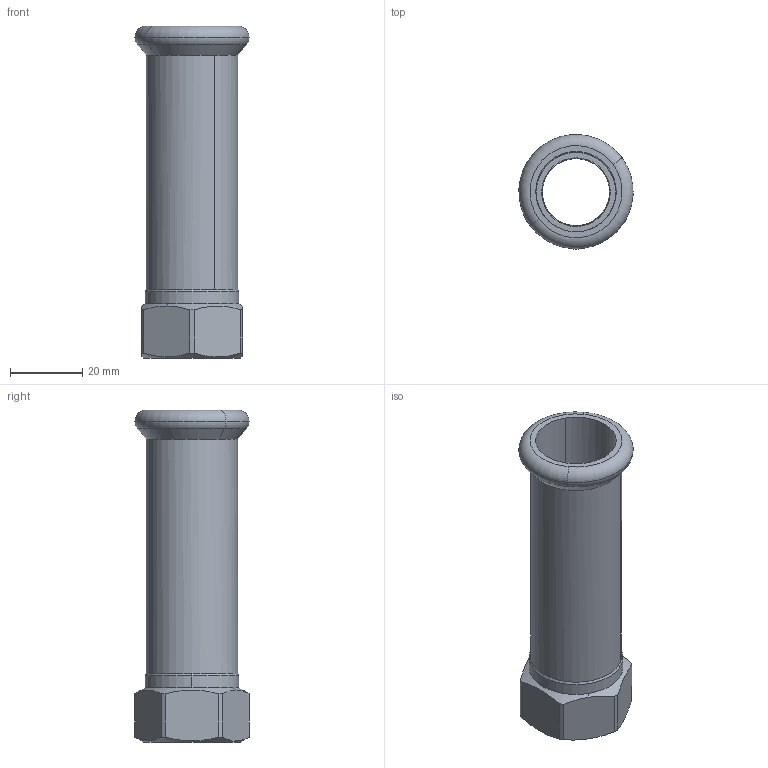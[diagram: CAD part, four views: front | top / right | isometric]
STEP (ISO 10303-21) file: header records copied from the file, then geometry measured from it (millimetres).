
FILE_DESCRIPTION(('CoCreate Modeling STEP Export'),'2;1');
FILE_NAME('C1443 22xRp1-2.stp','2014-11-12T16:43:06',(''),(''),'CoCreate Modeling STEP processor for AP214 (Solid Model)','CoCreate Modeling 17.00A 17-Jun-2010 (C) Parametric Technology GmbH','');
FILE_SCHEMA(('AUTOMOTIVE_DESIGN { 1 0 10303 214 1 1 1 1 }'));
Length unit declared in the file: millimetre
Products named in the file (2): C1443_22xRp1-2
Assembly tree (1 placements, depth 2):
  C1443_22xRp1-2
    C1443_22xRp1-2
Bounding box: 31.64 x 31.7 x 92 mm (x, y, z)
Volume: 15905.3 mm3; surface area: 14861.7 mm2
Topology: 1 solids, 1 shells, 45 faces, 114 edges, 74 vertices
Faces by surface type: cylinder 18, cone 12, plane 11, torus 4
Entity records: 2197 total; most frequent: CARTESIAN_POINT 1125, ORIENTED_EDGE 228, DIRECTION 192, EDGE_CURVE 114, AXIS2_PLACEMENT_3D 78, VERTEX_POINT 74, EDGE_LOOP 50, FACE_OUTER_BOUND 45
